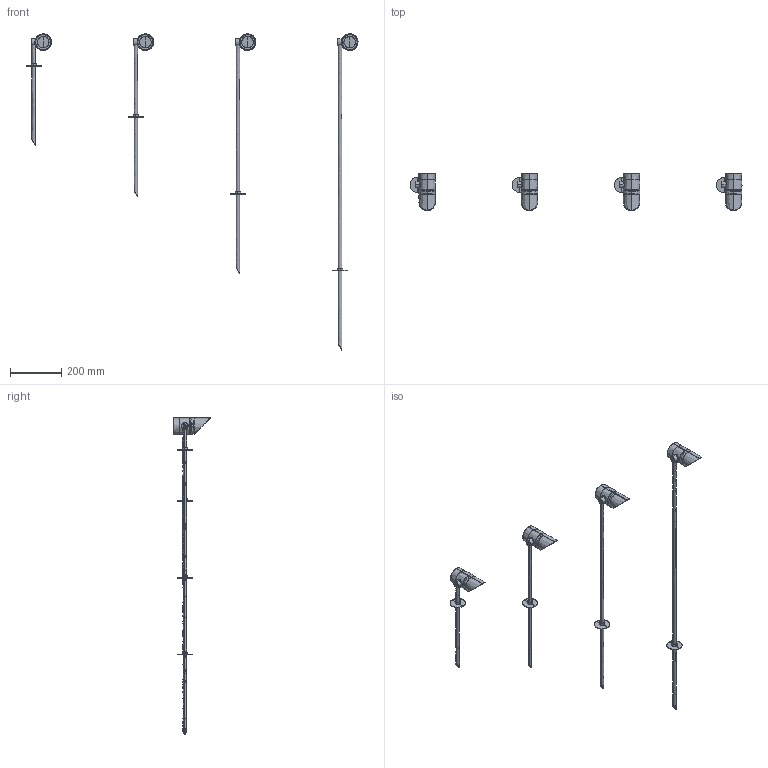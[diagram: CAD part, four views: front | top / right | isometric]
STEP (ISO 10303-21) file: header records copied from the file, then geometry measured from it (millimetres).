
FILE_DESCRIPTION(/* description */ (''),/* implementation_level */ '2;1');
FILE_NAME(/* name */ 'Spike 10-724',/* time_stamp */ '2025-06-19T10:42:43+02:00',/* author */ (''),/* organization */ (''),/* preprocessor_version */ 'ST-DEVELOPER v15',/* originating_system */ '',/* authorisation */ '');
FILE_SCHEMA (('CONFIG_CONTROL_DESIGN'));
Products named in the file (1): Document
Bounding box: 1299.96 x 146.13 x 1238.26 mm (x, y, z)
Volume: 963707.1 mm3; surface area: 617537.9 mm2
Topology: 44 solids, 44 shells, 2439 faces, 5930 edges, 3344 vertices
Faces by surface type: bspline 2439
Entity records: 218329 total; most frequent: CARTESIAN_POINT 145467, B_SPLINE_CURVE_WITH_KNOTS 15140, ORIENTED_EDGE 11420, PCURVE 11420, DEFINITIONAL_REPRESENTATION 11420, SURFACE_CURVE 5710, EDGE_CURVE 5710, VERTEX_POINT 3344
